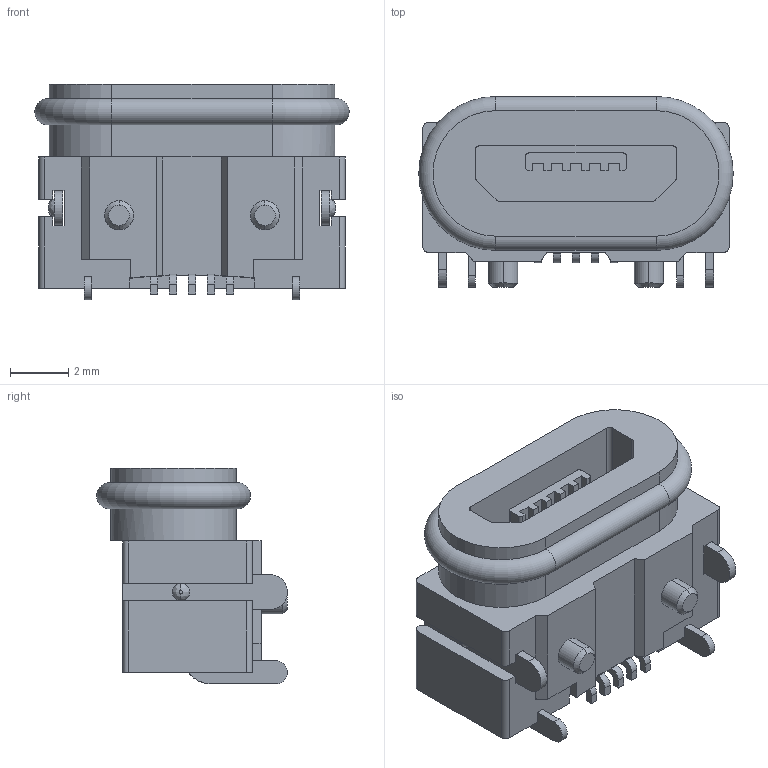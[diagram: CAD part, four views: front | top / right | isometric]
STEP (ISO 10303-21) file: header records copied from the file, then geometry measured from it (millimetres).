
FILE_DESCRIPTION((''),'2;1');
FILE_NAME('KYP-UB05-01BGF','2015-11-27T',('Administrator'),(''),'PRO/ENGINEER BY PARAMETRIC TECHNOLOGY CORPORATION, 2009440','PRO/ENGINEER BY PARAMETRIC TECHNOLOGY CORPORATION, 2009440','');
FILE_SCHEMA(('AUTOMOTIVE_DESIGN_CC2 { 1 2 10303 214 -1 1 5 2 }'));
Length unit declared in the file: millimetre
Products named in the file (1): KYP-UB05-01BGF
Bounding box: 10.78 x 6.54 x 7.4 mm (x, y, z)
Volume: 278.5 mm3; surface area: 505.6 mm2
Topology: 1 solids, 1 shells, 266 faces, 750 edges, 495 vertices
Faces by surface type: plane 207, cylinder 49, bspline 4, cone 4, torus 2
Entity records: 8678 total; most frequent: CARTESIAN_POINT 1659, ORIENTED_EDGE 1500, DIRECTION 1409, EDGE_CURVE 750, VECTOR 593, LINE 593, VERTEX_POINT 495, AXIS2_PLACEMENT_3D 408
